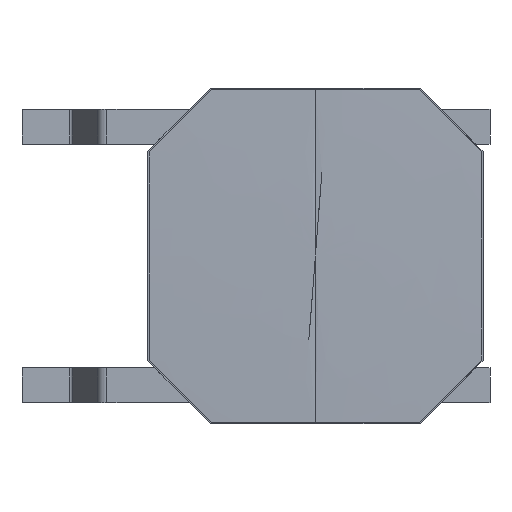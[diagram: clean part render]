
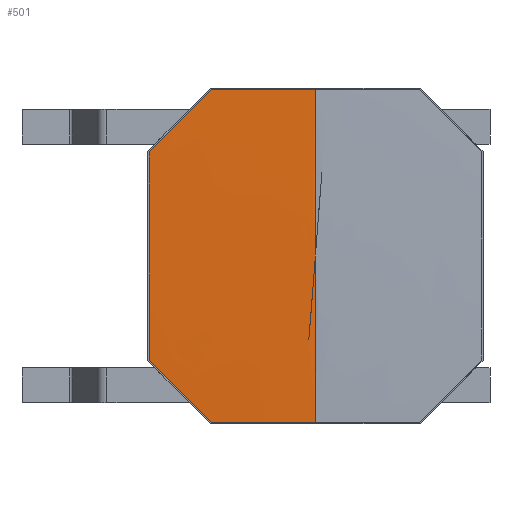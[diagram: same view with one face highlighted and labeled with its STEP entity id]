
A CAD part, front view. The second image highlights one B-rep face of the part: STEP entity #501.
In plain terms, the highlighted face is a revolution surface.
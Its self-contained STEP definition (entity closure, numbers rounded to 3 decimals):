
#142=CARTESIAN_POINT('',(-2.38,-0.068,1.492));
#143=CARTESIAN_POINT('',(-2.38,-0.069,1.426));
#144=CARTESIAN_POINT('',(-2.38,-0.071,1.293));
#145=CARTESIAN_POINT('',(-2.38,-0.073,1.095));
#146=CARTESIAN_POINT('',(-2.38,-0.074,0.896));
#147=CARTESIAN_POINT('',(-2.38,-0.075,0.698));
#148=CARTESIAN_POINT('',(-2.38,-0.076,0.499));
#149=CARTESIAN_POINT('',(-2.38,-0.077,0.301));
#150=CARTESIAN_POINT('',(-2.38,-0.077,0.101));
#151=CARTESIAN_POINT('',(-2.38,-0.077,-0.098));
#152=CARTESIAN_POINT('',(-2.38,-0.077,-0.298));
#153=CARTESIAN_POINT('',(-2.38,-0.076,-0.498));
#154=CARTESIAN_POINT('',(-2.38,-0.075,-0.697));
#155=CARTESIAN_POINT('',(-2.38,-0.074,-0.896));
#156=CARTESIAN_POINT('',(-2.38,-0.073,-1.094));
#157=CARTESIAN_POINT('',(-2.38,-0.071,-1.293));
#158=CARTESIAN_POINT('',(-2.38,-0.069,-1.425));
#159=CARTESIAN_POINT('',(-2.38,-0.068,-1.492));
#164=CARTESIAN_POINT('',(-1.492,-0.068,2.38));
#165=CARTESIAN_POINT('',(-1.565,-0.069,
2.306));
#166=CARTESIAN_POINT('',(-1.713,-0.07,
2.159));
#167=CARTESIAN_POINT('',(-1.936,-0.07,
1.936));
#168=CARTESIAN_POINT('',(-2.159,-0.07,
1.713));
#169=CARTESIAN_POINT('',(-2.306,-0.069,
1.565));
#170=CARTESIAN_POINT('',(-2.38,-0.068,1.492));
#175=CARTESIAN_POINT('',(0.,-0.077,2.38));
#176=CARTESIAN_POINT('',(-0.063,-0.077,2.38));
#177=CARTESIAN_POINT('',(-0.188,-0.077,2.38));
#178=CARTESIAN_POINT('',(-0.375,-0.077,2.38));
#179=CARTESIAN_POINT('',(-0.562,-0.076,2.38));
#180=CARTESIAN_POINT('',(-0.749,-0.075,2.38));
#181=CARTESIAN_POINT('',(-0.935,-0.074,2.38));
#182=CARTESIAN_POINT('',(-1.12,-0.072,2.38));
#183=CARTESIAN_POINT('',(-1.306,-0.071,2.38));
#184=CARTESIAN_POINT('',(-1.43,-0.069,2.38));
#185=CARTESIAN_POINT('',(-1.492,-0.068,2.38));
#190=CARTESIAN_POINT('',(0.,-0.077,2.38));
#191=CARTESIAN_POINT('',(0.,-0.092,1.587));
#192=CARTESIAN_POINT('',(0.,-0.1,0.793));
#193=CARTESIAN_POINT('',(0.,-0.1,0.));
#198=CARTESIAN_POINT('',(0.,-0.077,-2.38));
#199=CARTESIAN_POINT('',(0.,-0.092,-1.587));
#200=CARTESIAN_POINT('',(0.,-0.1,-0.793));
#201=CARTESIAN_POINT('',(0.,-0.1,0.));
#206=CARTESIAN_POINT('',(-1.492,-0.068,-2.38));
#207=CARTESIAN_POINT('',(-1.43,-0.069,-2.38));
#208=CARTESIAN_POINT('',(-1.306,-0.071,-2.38));
#209=CARTESIAN_POINT('',(-1.119,-0.072,-2.38));
#210=CARTESIAN_POINT('',(-0.933,-0.074,-2.38));
#211=CARTESIAN_POINT('',(-0.747,-0.075,-2.38));
#212=CARTESIAN_POINT('',(-0.561,-0.076,-2.38));
#213=CARTESIAN_POINT('',(-0.375,-0.077,-2.38));
#214=CARTESIAN_POINT('',(-0.188,-0.077,-2.38));
#215=CARTESIAN_POINT('',(-0.063,-0.077,-2.38));
#216=CARTESIAN_POINT('',(0.,-0.077,-2.38));
#221=CARTESIAN_POINT('',(-2.38,-0.068,-1.492));
#222=CARTESIAN_POINT('',(-2.306,-0.069,
-1.565));
#223=CARTESIAN_POINT('',(-2.159,-0.07,
-1.713));
#224=CARTESIAN_POINT('',(-1.936,-0.07,
-1.936));
#225=CARTESIAN_POINT('',(-1.713,-0.07,
-2.159));
#226=CARTESIAN_POINT('',(-1.565,-0.069,
-2.306));
#227=CARTESIAN_POINT('',(-1.492,-0.068,-2.38));
#232=CARTESIAN_POINT('',(0.,-0.077,-2.38));
#257=CARTESIAN_POINT('',(0.,-0.077,2.38));
#307=CARTESIAN_POINT('',(-2.38,-0.068,1.492));
#309=VERTEX_POINT('',#307);
#311=CARTESIAN_POINT('',(-2.38,-0.068,-1.492));
#313=VERTEX_POINT('',#311);
#315=CARTESIAN_POINT('',(-1.492,-0.068,-2.38));
#317=VERTEX_POINT('',#315);
#335=CARTESIAN_POINT('',(-1.492,-0.068,2.38));
#337=VERTEX_POINT('',#335);
#338=VERTEX_POINT('',#232);
#339=VERTEX_POINT('',#257);
#340=VERTEX_POINT('',#193);
#481=CARTESIAN_POINT('',(0.,-0.1,0.));
#482=CARTESIAN_POINT('',(0.,-0.1,0.946));
#483=CARTESIAN_POINT('',(0.,-0.089,1.891));
#484=CARTESIAN_POINT('',(0.,-0.068,2.837));
#486=CARTESIAN_POINT('',(0.,-0.105,0.));
#487=DIRECTION('',(0.,1.,0.));
#488=AXIS1_PLACEMENT('',#486,#487);
#489=SURFACE_OF_REVOLUTION('',#485,#488);
#490=ORIENTED_EDGE('',*,*,#372,.F.);
#491=ORIENTED_EDGE('',*,*,#389,.F.);
#492=ORIENTED_EDGE('',*,*,#403,.F.);
#494=ORIENTED_EDGE('',*,*,#493,.T.);
#496=ORIENTED_EDGE('',*,*,#495,.F.);
#497=ORIENTED_EDGE('',*,*,#459,.F.);
#498=ORIENTED_EDGE('',*,*,#474,.F.);
#499=EDGE_LOOP('',(#490,#491,#492,#494,#496,#497,#498));
#500=FACE_OUTER_BOUND('',#499,.F.);
#160=B_SPLINE_CURVE_WITH_KNOTS('',3,(#142,#143,#144,#145,#146,#147,#148,#149,
#150,#151,#152,#153,#154,#155,#156,#157,#158,#159),.UNSPECIFIED.,.F.,.F.,(4,1,1,
1,1,1,1,1,1,1,1,1,1,1,1,4),(0.,0.067,0.133,0.2,
0.267,0.333,0.4,0.467,0.533,
0.6,0.667,0.733,0.8,0.867,
0.933,1.),.UNSPECIFIED.);
#171=B_SPLINE_CURVE_WITH_KNOTS('',3,(#164,#165,#166,#167,#168,#169,#170),
.UNSPECIFIED.,.F.,.F.,(4,1,1,1,4),(0.,0.25,0.5,0.75,1.),
.UNSPECIFIED.);
#186=B_SPLINE_CURVE_WITH_KNOTS('',3,(#175,#176,#177,#178,#179,#180,#181,#182,
#183,#184,#185),.UNSPECIFIED.,.F.,.F.,(4,1,1,1,1,1,1,1,4),(0.,0.125,0.25,
0.375,0.5,0.625,0.75,0.875,1.),.UNSPECIFIED.);
#194=B_SPLINE_CURVE_WITH_KNOTS('',3,(#190,#191,#192,#193),.UNSPECIFIED.,.F.,.F.,
(4,4),(0.,1.),.UNSPECIFIED.);
#202=B_SPLINE_CURVE_WITH_KNOTS('',3,(#198,#199,#200,#201),.UNSPECIFIED.,.F.,.F.,
(4,4),(0.,1.),.UNSPECIFIED.);
#217=B_SPLINE_CURVE_WITH_KNOTS('',3,(#206,#207,#208,#209,#210,#211,#212,#213,
#214,#215,#216),.UNSPECIFIED.,.F.,.F.,(4,1,1,1,1,1,1,1,4),(0.,0.125,0.25,
0.375,0.5,0.625,0.75,0.875,1.),.UNSPECIFIED.);
#228=B_SPLINE_CURVE_WITH_KNOTS('',3,(#221,#222,#223,#224,#225,#226,#227),
.UNSPECIFIED.,.F.,.F.,(4,1,1,1,4),(0.,0.25,0.5,0.75,1.),
.UNSPECIFIED.);
#372=EDGE_CURVE('',#309,#313,#160,.T.);
#389=EDGE_CURVE('',#337,#309,#171,.T.);
#403=EDGE_CURVE('',#339,#337,#186,.T.);
#459=EDGE_CURVE('',#317,#338,#217,.T.);
#474=EDGE_CURVE('',#313,#317,#228,.T.);
#485=B_SPLINE_CURVE_WITH_KNOTS('',3,(#481,#482,#483,#484),.UNSPECIFIED.,.F.,.F.,
(4,4),(0.,1.),.UNSPECIFIED.);
#493=EDGE_CURVE('',#339,#340,#194,.T.);
#495=EDGE_CURVE('',#338,#340,#202,.T.);
#501=ADVANCED_FACE('',(#500),#489,.T.);
